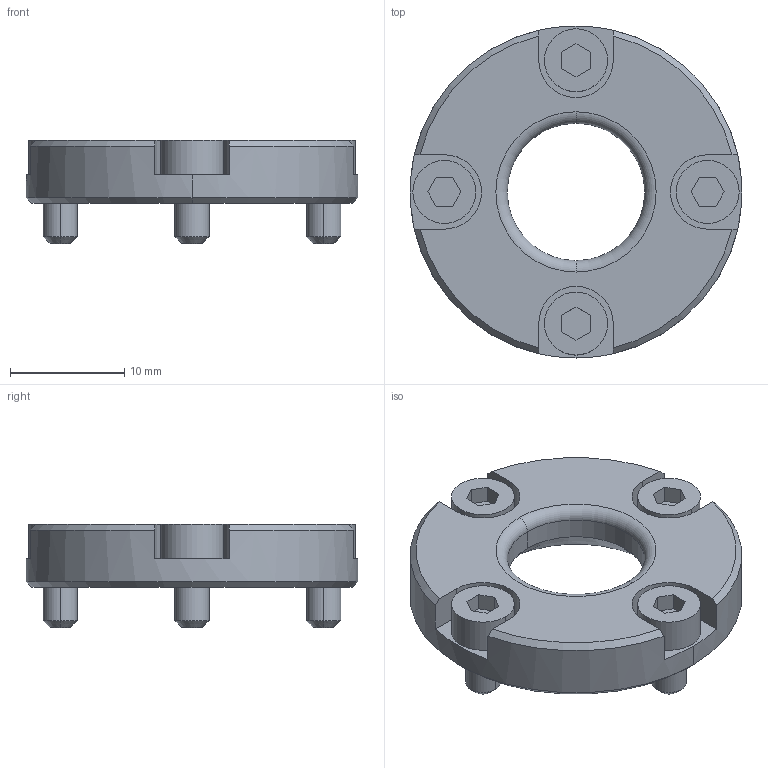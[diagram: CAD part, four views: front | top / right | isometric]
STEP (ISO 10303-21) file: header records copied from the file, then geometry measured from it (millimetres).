
FILE_DESCRIPTION (( 'STEP AP203' ), '1' );
FILE_NAME ('qcwes1225-b.STEP', '2023-04-07T01:54:12', ( '' ), ( '' ), 'SwSTEP 2.0', 'SolidWorks 2021', '' );
FILE_SCHEMA (( 'CONFIG_CONTROL_DESIGN' ));
Length unit declared in the file: millimetre
Products named in the file (1): qcwes1225-b
Bounding box: 29 x 29 x 9 mm (x, y, z)
Volume: 2727.2 mm3; surface area: 2374.2 mm2
Topology: 1 solids, 1 shells, 105 faces, 247 edges, 160 vertices
Faces by surface type: plane 54, cylinder 33, cone 16, torus 2
Entity records: 3112 total; most frequent: DIRECTION 545, CARTESIAN_POINT 537, ORIENTED_EDGE 494, EDGE_CURVE 247, AXIS2_PLACEMENT_3D 200, VERTEX_POINT 160, LINE 145, VECTOR 145
